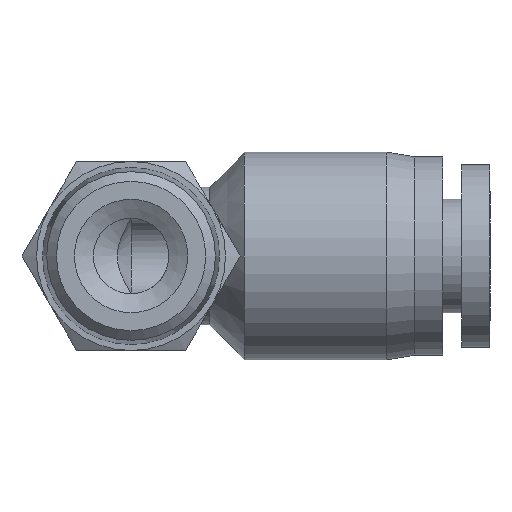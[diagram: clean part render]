
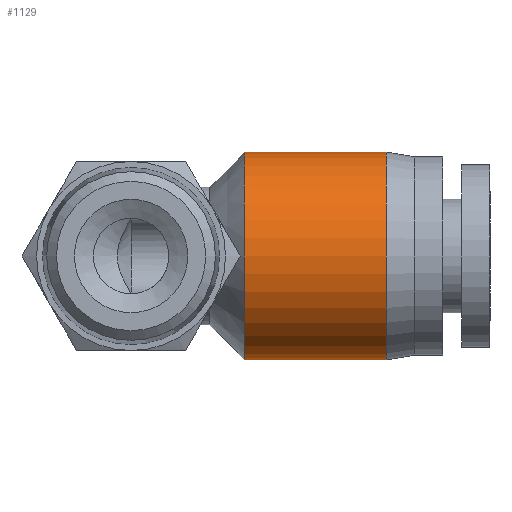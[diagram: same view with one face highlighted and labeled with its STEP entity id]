
A CAD part, front view. The second image highlights one B-rep face of the part: STEP entity #1129.
In plain terms, the highlighted cylindrical face has radius 5.5 mm (diameter 11 mm), a full revolution.
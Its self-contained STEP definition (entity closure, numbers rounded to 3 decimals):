
#1095=CARTESIAN_POINT('',(6.,5.5,0.0));
#1096=VERTEX_POINT('',#1095);
#1097=CARTESIAN_POINT('',(6.,0.0,0.0));
#1098=DIRECTION('',(1.0,0.0,0.0));
#1099=DIRECTION('',(0.0,1.0,0.0));
#1100=AXIS2_PLACEMENT_3D('',#1097,#1098,#1099);
#1101=CIRCLE('',#1100,5.5);
#1102=EDGE_CURVE('',#1096,#1096,#1101,.T.);
#1110=CARTESIAN_POINT('',(9.75,0.0,0.0));
#1111=DIRECTION('',(1.0,0.0,0.0));
#1112=DIRECTION('',(0.0,1.0,0.0));
#1113=AXIS2_PLACEMENT_3D('',#1110,#1111,#1112);
#1114=CYLINDRICAL_SURFACE('',#1113,5.5);
#1115=CARTESIAN_POINT('',(13.5,5.5,0.0));
#1116=VERTEX_POINT('',#1115);
#1117=CARTESIAN_POINT('',(13.5,0.0,0.0));
#1118=DIRECTION('',(1.0,0.0,0.0));
#1119=DIRECTION('',(0.0,1.0,0.0));
#1120=AXIS2_PLACEMENT_3D('',#1117,#1118,#1119);
#1121=CIRCLE('',#1120,5.5);
#1122=EDGE_CURVE('',#1116,#1116,#1121,.T.);
#1123=ORIENTED_EDGE('',*,*,#1122,.F.);
#1124=EDGE_LOOP('',(#1123));
#1125=FACE_OUTER_BOUND('',#1124,.T.);
#1126=ORIENTED_EDGE('',*,*,#1102,.T.);
#1127=EDGE_LOOP('',(#1126));
#1128=FACE_BOUND('',#1127,.T.);
#1129=ADVANCED_FACE('',(#1125,#1128),#1114,.T.);
